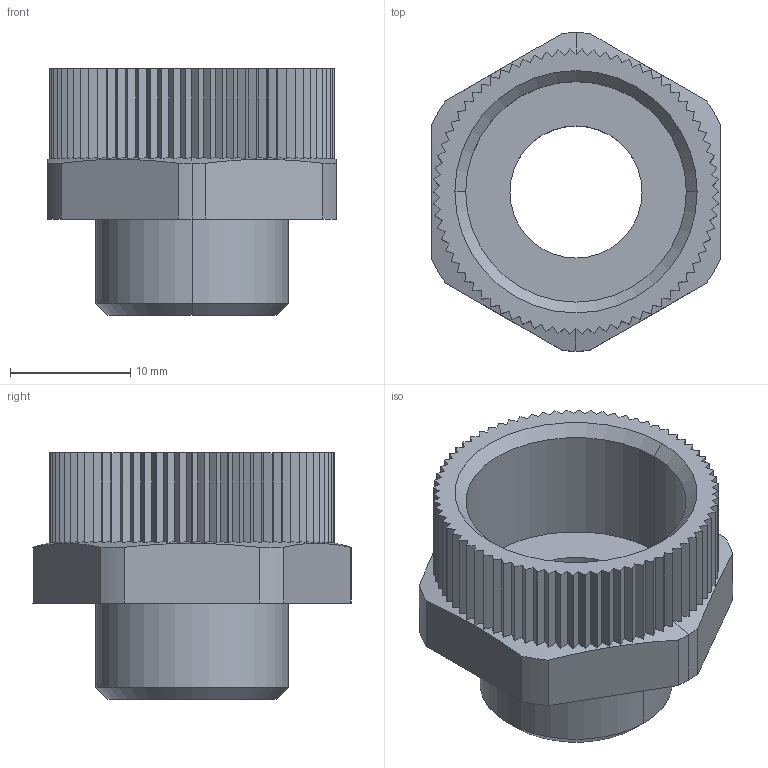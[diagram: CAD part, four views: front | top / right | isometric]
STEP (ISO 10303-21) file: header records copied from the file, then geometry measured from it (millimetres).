
FILE_DESCRIPTION (( 'STEP AP203' ), '1' );
FILE_NAME ('M16M20PA.STEP', '2005-12-12T10:31:29', ( ' ' ), ( '' ), 'SwSTEP 2.0', 'SolidWorks 2005278', '' );
FILE_SCHEMA (( 'CONFIG_CONTROL_DESIGN' ));
Length unit declared in the file: millimetre
Products named in the file (1): M16M20PA
Bounding box: 24 x 26.5 x 20.5 mm (x, y, z)
Volume: 3482 mm3; surface area: 3258.3 mm2
Topology: 1 solids, 1 shells, 290 faces, 842 edges, 559 vertices
Faces by surface type: plane 195, cylinder 87, cone 6, torus 2
Entity records: 9782 total; most frequent: CARTESIAN_POINT 2166, ORIENTED_EDGE 1684, DIRECTION 1455, EDGE_CURVE 842, VERTEX_POINT 559, VECTOR 503, LINE 503, AXIS2_PLACEMENT_3D 476
